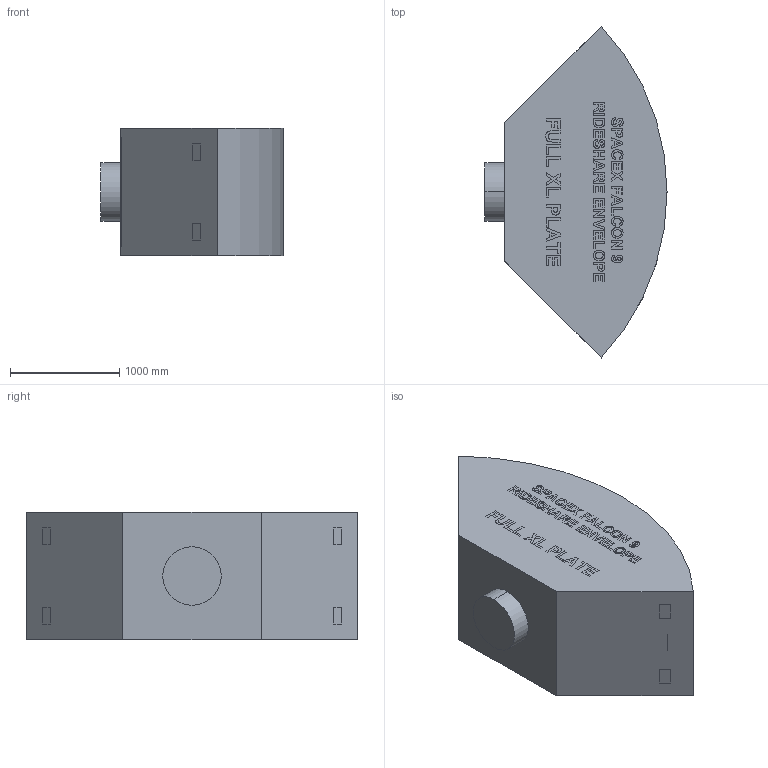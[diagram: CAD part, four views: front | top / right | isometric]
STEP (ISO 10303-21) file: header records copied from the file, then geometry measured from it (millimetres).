
FILE_DESCRIPTION (( 'STEP AP203' ), '1' );
FILE_NAME ('2026-09-04-MP42D-Fitcheck-CAD.STEP', '2026-09-04T08:23:37', ( '' ), ( '' ), 'SwSTEP 2.0', 'SolidWorks 2024', '' );
FILE_SCHEMA (( 'CONFIG_CONTROL_DESIGN' ));
Length unit declared in the file: millimetre
Products named in the file (3): MP42D-Fitcheck-Part; 2026-09-04-MP42D-Fitcheck-CAD; 10035648
Assembly tree (2 placements, depth 2):
  2026-09-04-MP42D-Fitcheck-CAD
    MP42D-Fitcheck-Part
    10035648
Bounding box: 1663.71 x 3030.87 x 1168.4 mm (x, y, z)
Volume: 4074097924.2 mm3; surface area: 26724844.3 mm2
Topology: 2 solids, 114 shells, 6535 faces, 16280 edges, 10274 vertices
Faces by surface type: plane 3114, cylinder 2272, cone 772, torus 164, bspline 133, sphere 80
Entity records: 212857 total; most frequent: CARTESIAN_POINT 56166, DIRECTION 33242, ORIENTED_EDGE 32224, EDGE_CURVE 16112, AXIS2_PLACEMENT_3D 12172, VERTEX_POINT 10266, VECTOR 8898, LINE 8898
